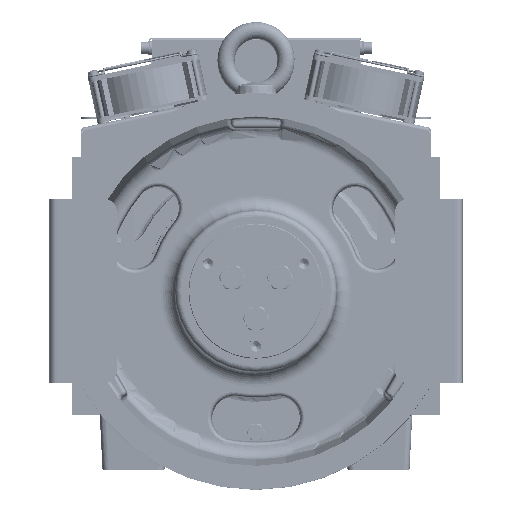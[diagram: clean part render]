
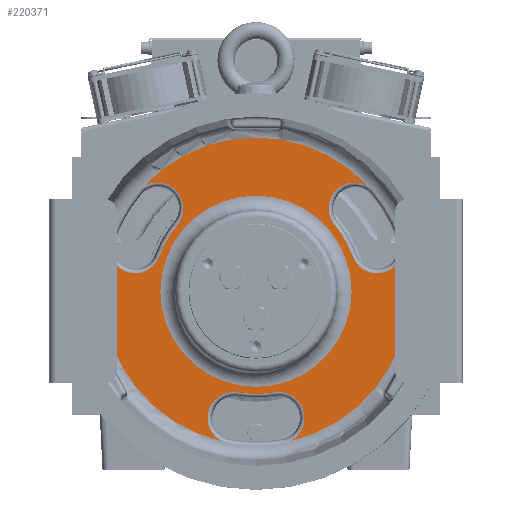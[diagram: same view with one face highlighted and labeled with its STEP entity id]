
A CAD part, top view. The second image highlights one B-rep face of the part: STEP entity #220371.
In plain terms, the highlighted planar face has unit normal (0, 0, 1) as drawn and (0, 0, -1) by its records, which use the part's own axes.
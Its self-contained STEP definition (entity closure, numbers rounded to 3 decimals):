
#215464=CARTESIAN_POINT('',(-18.233,-103.405,-10.));
#215465=DIRECTION('',(0.,0.,-1.));
#215466=DIRECTION('',(-0.469,-0.883,0.));
#215467=AXIS2_PLACEMENT_3D('',#215464,#215465,#215466);
#215469=CARTESIAN_POINT('',(0.,0.,-10.));
#215470=DIRECTION('',(0.,0.,1.));
#215471=DIRECTION('',(-0.174,-0.985,0.));
#215472=AXIS2_PLACEMENT_3D('',#215469,#215470,#215471);
#215474=CARTESIAN_POINT('',(18.233,-103.405,-10.));
#215475=DIRECTION('',(0.,0.,-1.));
#215476=DIRECTION('',(-0.174,0.985,0.));
#215477=AXIS2_PLACEMENT_3D('',#215474,#215475,#215476);
#215479=CARTESIAN_POINT('',(18.233,-103.405,-10.));
#215480=DIRECTION('',(0.,0.,-1.));
#215481=DIRECTION('',(-0.165,0.986,0.));
#215482=AXIS2_PLACEMENT_3D('',#215479,#215480,#215481);
#215484=CARTESIAN_POINT('',(0.,0.,-10.));
#215485=DIRECTION('',(0.,0.,1.));
#215486=DIRECTION('',(0.225,-0.974,0.));
#215487=AXIS2_PLACEMENT_3D('',#215484,#215485,#215486);
#215489=CARTESIAN_POINT('',(98.668,35.912,-10.));
#215490=DIRECTION('',(0.,0.,-1.));
#215491=DIRECTION('',(0.999,0.036,0.));
#215492=AXIS2_PLACEMENT_3D('',#215489,#215490,#215491);
#215494=CARTESIAN_POINT('',(0.,0.,-10.));
#215495=DIRECTION('',(0.,0.,1.));
#215496=DIRECTION('',(0.94,0.342,0.));
#215497=AXIS2_PLACEMENT_3D('',#215494,#215495,#215496);
#215499=CARTESIAN_POINT('',(80.435,67.493,-10.));
#215500=DIRECTION('',(0.,0.,-1.));
#215501=DIRECTION('',(-0.766,-0.643,0.));
#215502=AXIS2_PLACEMENT_3D('',#215499,#215500,#215501);
#215504=CARTESIAN_POINT('',(80.435,67.493,-10.));
#215505=DIRECTION('',(0.,0.,-1.));
#215506=DIRECTION('',(-0.771,-0.636,0.));
#215507=AXIS2_PLACEMENT_3D('',#215504,#215505,#215506);
#215509=CARTESIAN_POINT('',(0.,0.,-10.));
#215510=DIRECTION('',(0.,0.,1.));
#215511=DIRECTION('',(0.731,0.682,0.));
#215512=AXIS2_PLACEMENT_3D('',#215509,#215510,#215511);
#215514=CARTESIAN_POINT('',(0.,0.,-10.));
#215515=DIRECTION('',(0.,0.,1.));
#215516=DIRECTION('',(0.,1.,0.));
#215517=AXIS2_PLACEMENT_3D('',#215514,#215515,#215516);
#215519=CARTESIAN_POINT('',(-80.435,67.493,-10.));
#215520=DIRECTION('',(0.,0.,-1.));
#215521=DIRECTION('',(-0.531,0.848,0.));
#215522=AXIS2_PLACEMENT_3D('',#215519,#215520,#215521);
#215524=CARTESIAN_POINT('',(0.,0.,-10.));
#215525=DIRECTION('',(0.,0.,1.));
#215526=DIRECTION('',(-0.766,0.643,0.));
#215527=AXIS2_PLACEMENT_3D('',#215524,#215525,#215526);
#215529=CARTESIAN_POINT('',(-98.668,35.912,-10.));
#215530=DIRECTION('',(0.,0.,-1.));
#215531=DIRECTION('',(0.94,-0.342,0.));
#215532=AXIS2_PLACEMENT_3D('',#215529,#215530,#215531);
#215534=CARTESIAN_POINT('',(-98.668,35.912,-10.));
#215535=DIRECTION('',(0.,0.,-1.));
#215536=DIRECTION('',(0.937,-0.35,0.));
#215537=AXIS2_PLACEMENT_3D('',#215534,#215535,#215536);
#215539=CARTESIAN_POINT('',(0.,0.,-10.));
#215540=DIRECTION('',(0.,0.,1.));
#215541=DIRECTION('',(-0.956,0.292,0.));
#215542=AXIS2_PLACEMENT_3D('',#215539,#215540,#215541);
#215544=CARTESIAN_POINT('',(0.,0.,-10.));
#215545=DIRECTION('',(0.,0.,-1.));
#215546=DIRECTION('',(0.,-1.,0.));
#215547=AXIS2_PLACEMENT_3D('',#215544,#215545,#215546);
#215549=CARTESIAN_POINT('',(0.,0.,-10.));
#215550=DIRECTION('',(0.,0.,-1.));
#215551=DIRECTION('',(0.,1.,0.));
#215552=AXIS2_PLACEMENT_3D('',#215549,#215550,#215551);
#219554=CARTESIAN_POINT('',(0.,-77.987,-10.));
#219555=CARTESIAN_POINT('',(0.,77.987,-10.));
#219556=VERTEX_POINT('',#219554);
#219557=VERTEX_POINT('',#219555);
#219558=CARTESIAN_POINT('',(-28.194,-122.178,-10.));
#219559=CARTESIAN_POINT('',(-14.543,-82.475,-10.));
#219560=VERTEX_POINT('',#219558);
#219561=VERTEX_POINT('',#219559);
#219562=CARTESIAN_POINT('',(14.543,-82.475,-10.));
#219563=VERTEX_POINT('',#219562);
#219564=CARTESIAN_POINT('',(14.721,-82.445,-10.));
#219565=CARTESIAN_POINT('',(28.194,-122.178,-10.));
#219566=VERTEX_POINT('',#219564);
#219567=VERTEX_POINT('',#219565);
#219568=CARTESIAN_POINT('',(119.906,36.672,-10.));
#219569=VERTEX_POINT('',#219568);
#219570=CARTESIAN_POINT('',(78.697,28.643,-10.));
#219571=VERTEX_POINT('',#219570);
#219572=CARTESIAN_POINT('',(64.154,53.832,-10.));
#219573=VERTEX_POINT('',#219572);
#219574=CARTESIAN_POINT('',(64.039,53.971,-10.));
#219575=CARTESIAN_POINT('',(91.712,85.506,-10.));
#219576=VERTEX_POINT('',#219574);
#219577=VERTEX_POINT('',#219575);
#219578=CARTESIAN_POINT('',(0.,125.389,-10.));
#219579=VERTEX_POINT('',#219578);
#219580=CARTESIAN_POINT('',(-91.712,85.506,-10.));
#219581=VERTEX_POINT('',#219580);
#219582=CARTESIAN_POINT('',(-64.154,53.832,-10.));
#219583=VERTEX_POINT('',#219582);
#219584=CARTESIAN_POINT('',(-78.697,28.643,-10.));
#219585=VERTEX_POINT('',#219584);
#219586=CARTESIAN_POINT('',(-78.76,28.473,-10.));
#219587=CARTESIAN_POINT('',(-119.906,36.672,-10.));
#219588=VERTEX_POINT('',#219586);
#219589=VERTEX_POINT('',#219587);
#220327=CARTESIAN_POINT('',(0.,0.,-10.));
#220328=DIRECTION('',(0.,0.,1.));
#220329=DIRECTION('',(0.,1.,0.));
#220330=AXIS2_PLACEMENT_3D('',#220327,#220328,#220329);
#220331=PLANE('',#220330);
#220333=ORIENTED_EDGE('',*,*,#220332,.T.);
#220335=ORIENTED_EDGE('',*,*,#220334,.T.);
#220337=ORIENTED_EDGE('',*,*,#220336,.T.);
#220339=ORIENTED_EDGE('',*,*,#220338,.T.);
#220341=ORIENTED_EDGE('',*,*,#220340,.T.);
#220343=ORIENTED_EDGE('',*,*,#220342,.T.);
#220345=ORIENTED_EDGE('',*,*,#220344,.T.);
#220347=ORIENTED_EDGE('',*,*,#220346,.T.);
#220349=ORIENTED_EDGE('',*,*,#220348,.T.);
#220351=ORIENTED_EDGE('',*,*,#220350,.T.);
#220353=ORIENTED_EDGE('',*,*,#220352,.T.);
#220355=ORIENTED_EDGE('',*,*,#220354,.T.);
#220357=ORIENTED_EDGE('',*,*,#220356,.T.);
#220359=ORIENTED_EDGE('',*,*,#220358,.T.);
#220361=ORIENTED_EDGE('',*,*,#220360,.T.);
#220363=ORIENTED_EDGE('',*,*,#220362,.T.);
#220364=EDGE_LOOP('',(#220333,#220335,#220337,#220339,#220341,#220343,#220345,
#220347,#220349,#220351,#220353,#220355,#220357,#220359,#220361,#220363));
#220365=FACE_OUTER_BOUND('',#220364,.F.);
#220366=ORIENTED_EDGE('',*,*,#220316,.T.);
#220368=ORIENTED_EDGE('',*,*,#220367,.T.);
#220369=EDGE_LOOP('',(#220366,#220368));
#220370=FACE_BOUND('',#220369,.F.);
#220371=ADVANCED_FACE('',(#220365,#220370),#220331,.F.);
#215468=CIRCLE('',#215467,21.252);
#215473=CIRCLE('',#215472,83.748);
#215478=CIRCLE('',#215477,21.252);
#215483=CIRCLE('',#215482,21.252);
#215488=CIRCLE('',#215487,125.389);
#215493=CIRCLE('',#215492,21.252);
#215498=CIRCLE('',#215497,83.748);
#215503=CIRCLE('',#215502,21.252);
#215508=CIRCLE('',#215507,21.252);
#215513=CIRCLE('',#215512,125.389);
#215518=CIRCLE('',#215517,125.389);
#215523=CIRCLE('',#215522,21.252);
#215528=CIRCLE('',#215527,83.748);
#215533=CIRCLE('',#215532,21.252);
#215538=CIRCLE('',#215537,21.252);
#215543=CIRCLE('',#215542,125.389);
#215548=CIRCLE('',#215547,77.987);
#215553=CIRCLE('',#215552,77.987);
#220316=EDGE_CURVE('',#219556,#219557,#215548,.T.);
#220332=EDGE_CURVE('',#219560,#219561,#215468,.T.);
#220334=EDGE_CURVE('',#219561,#219563,#215473,.T.);
#220336=EDGE_CURVE('',#219563,#219566,#215478,.T.);
#220338=EDGE_CURVE('',#219566,#219567,#215483,.T.);
#220340=EDGE_CURVE('',#219567,#219569,#215488,.T.);
#220342=EDGE_CURVE('',#219569,#219571,#215493,.T.);
#220344=EDGE_CURVE('',#219571,#219573,#215498,.T.);
#220346=EDGE_CURVE('',#219573,#219576,#215503,.T.);
#220348=EDGE_CURVE('',#219576,#219577,#215508,.T.);
#220350=EDGE_CURVE('',#219577,#219579,#215513,.T.);
#220352=EDGE_CURVE('',#219579,#219581,#215518,.T.);
#220354=EDGE_CURVE('',#219581,#219583,#215523,.T.);
#220356=EDGE_CURVE('',#219583,#219585,#215528,.T.);
#220358=EDGE_CURVE('',#219585,#219588,#215533,.T.);
#220360=EDGE_CURVE('',#219588,#219589,#215538,.T.);
#220362=EDGE_CURVE('',#219589,#219560,#215543,.T.);
#220367=EDGE_CURVE('',#219557,#219556,#215553,.T.);
